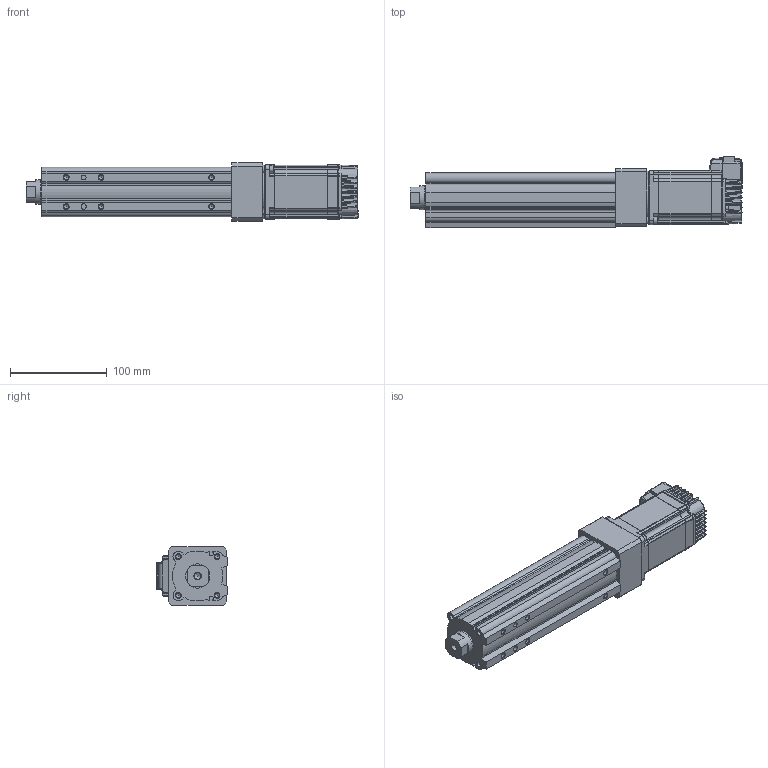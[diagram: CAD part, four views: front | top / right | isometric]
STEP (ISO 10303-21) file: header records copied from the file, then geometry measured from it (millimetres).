
FILE_DESCRIPTION (( 'STEP AP214' ), '1' );
FILE_NAME ('LEY3(+)-32DNM1□-100-23L.STEP', '2023-04-06T07:51:56', ( '' ), ( '' ), 'SwSTEP 2.0', 'SolidWorks 2019', '' );
FILE_SCHEMA (( 'AUTOMOTIVE_DESIGN' ));
Length unit declared in the file: millimetre
Products named in the file (5): CM3(+)-23L50A_2-M4_01; LEY3(+)-32NM1?_BODY_100; LEY3(+)-32NM1?_ROD_100; LEY3(+)-32DNM1□-100-23L; LEY3(+)-32DNM1_MOTOR Flange
Assembly tree (4 placements, depth 2):
  LEY3(+)-32DNM1□-100-23L
    LEY3(+)-32NM1?_BODY_100
    LEY3(+)-32NM1?_ROD_100
    LEY3(+)-32DNM1_MOTOR Flange
    CM3(+)-23L50A_2-M4_01
Bounding box: 342.8 x 73.75 x 60 mm (x, y, z)
Volume: 845149 mm3; surface area: 141108 mm2
Topology: 4 solids, 13 shells, 1439 faces, 3713 edges, 2295 vertices
Faces by surface type: plane 668, cylinder 432, bspline 133, cone 101, torus 58, sphere 47
Full cylindrical faces by diameter (mm): 2.5 x4, 3 x2, 3.2 x4, 4.2 x1, 4.5 x7, 4.9 x10, 5 x1, 6.2 x4, 6.35 x1, 6.8 x1, 7 x2, 8 x2, 24.8 x1, 25 x2, 32 x2, 38.1 x1
Entity records: 49067 total; most frequent: CARTESIAN_POINT 12638, ORIENTED_EDGE 7102, DIRECTION 6555, EDGE_CURVE 3551, VERTEX_POINT 2267, AXIS2_PLACEMENT_3D 2230, LINE 2095, VECTOR 2095
